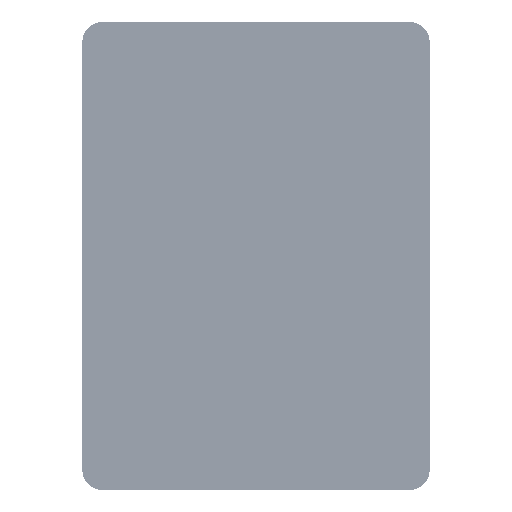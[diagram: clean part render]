
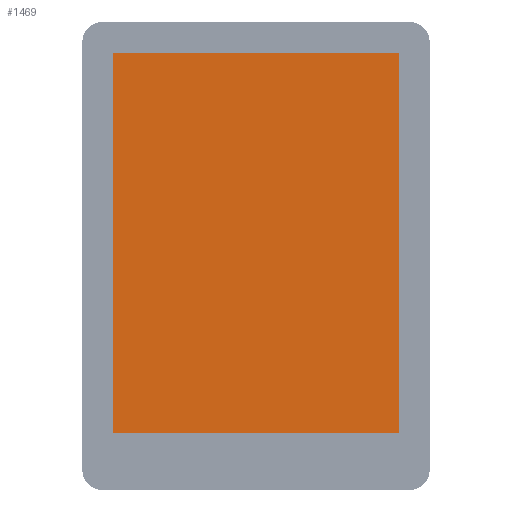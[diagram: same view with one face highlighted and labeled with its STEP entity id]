
A CAD part, top view. The second image highlights one B-rep face of the part: STEP entity #1469.
In plain terms, the highlighted planar face has unit normal (0, 0, 1).
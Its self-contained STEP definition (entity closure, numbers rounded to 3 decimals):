
#271=DIRECTION('',(1.,0.,0.));
#272=VECTOR('',#271,43.6);
#273=CARTESIAN_POINT('',(-21.8,29.,1.05));
#274=LINE('',#273,#272);
#278=DIRECTION('',(0.,1.,0.));
#279=VECTOR('',#278,58.);
#280=CARTESIAN_POINT('',(21.8,-29.,1.05));
#281=LINE('',#280,#279);
#285=DIRECTION('',(1.,0.,0.));
#286=VECTOR('',#285,43.6);
#287=CARTESIAN_POINT('',(-21.8,-29.,1.05));
#288=LINE('',#287,#286);
#292=DIRECTION('',(0.,1.,0.));
#293=VECTOR('',#292,58.);
#294=CARTESIAN_POINT('',(-21.8,-29.,1.05));
#295=LINE('',#294,#293);
#1104=CARTESIAN_POINT('',(-21.8,29.,1.05));
#1105=CARTESIAN_POINT('',(21.8,29.,1.05));
#1106=VERTEX_POINT('',#1104);
#1107=VERTEX_POINT('',#1105);
#1108=CARTESIAN_POINT('',(21.8,-29.,1.05));
#1109=VERTEX_POINT('',#1108);
#1110=CARTESIAN_POINT('',(-21.8,-29.,1.05));
#1111=VERTEX_POINT('',#1110);
#1455=CARTESIAN_POINT('',(0.,0.,1.05));
#1456=DIRECTION('',(0.,0.,1.));
#1457=DIRECTION('',(1.,0.,0.));
#1458=AXIS2_PLACEMENT_3D('',#1455,#1456,#1457);
#1459=PLANE('',#1458);
#1460=ORIENTED_EDGE('',*,*,#1445,.T.);
#1462=ORIENTED_EDGE('',*,*,#1461,.F.);
#1464=ORIENTED_EDGE('',*,*,#1463,.F.);
#1466=ORIENTED_EDGE('',*,*,#1465,.T.);
#1467=EDGE_LOOP('',(#1460,#1462,#1464,#1466));
#1468=FACE_OUTER_BOUND('',#1467,.F.);
#1469=ADVANCED_FACE('',(#1468),#1459,.T.);
#1445=EDGE_CURVE('',#1106,#1107,#274,.T.);
#1461=EDGE_CURVE('',#1109,#1107,#281,.T.);
#1463=EDGE_CURVE('',#1111,#1109,#288,.T.);
#1465=EDGE_CURVE('',#1111,#1106,#295,.T.);
